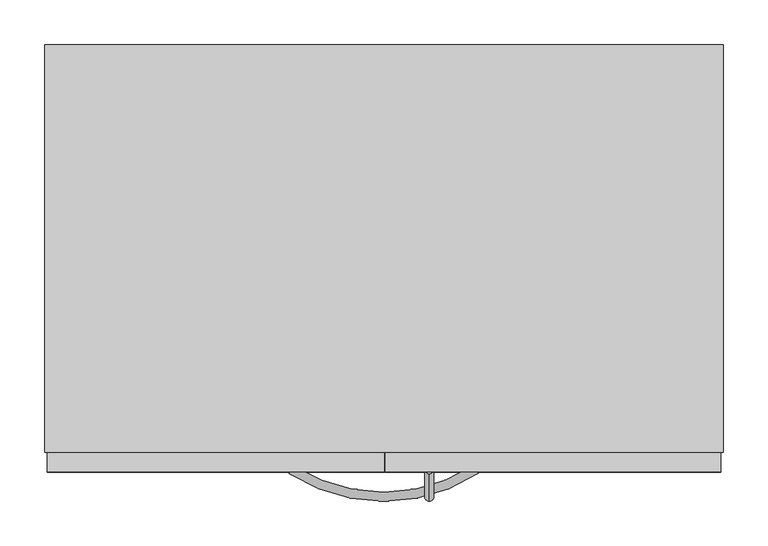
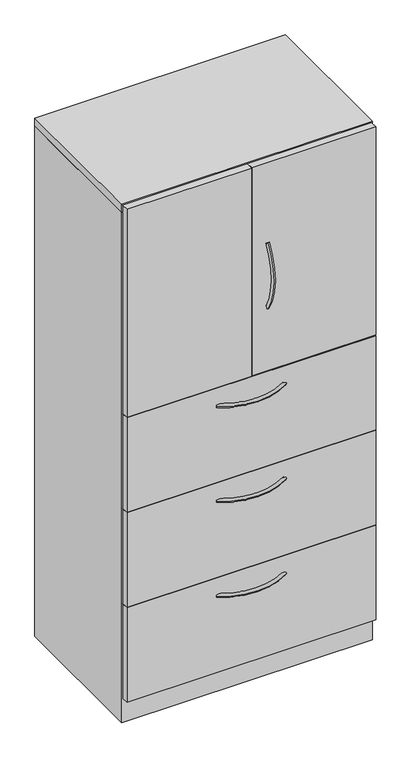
"""IFC4 building model written with IfcOpenShell, lengths in millimetres: furniture geometry, Steelcase - Universal Storage - Cabinet - Combination - Proud Steel : 65 1/2H - Hinged Doors/3 Drawers - 18 7/8D x 30W."""

from ifc_helpers import new_model, si_unit, point, frame, origin, place, context, project, spatial, polyline, circle_curve, ellipse_curve, trimmed, outline, extrude, faceted_brep, source, transform, mapped, element, save
from ifc_brep_helpers import plane_surface, revolved_surface, advanced_brep


def furniture_ed69521b(model_context):
    return source(origin(), model_context, "Body", "SolidModel", [
        extrude(outline(polyline([(758.8225413, -479.552), (3.1725353, -479.552), (3.1725353, -457.3261219), (758.8225413, -457.3261219), (758.8225413, -479.552)])), frame((0.0, 0.0, 77.724), z_axis=(0.0, 0.0, 1.0), x_axis=(1.0, 0.0, 0.0)), (0.0, 0.0, 1.0), 303.276),
        extrude(outline(polyline([(758.8225413, -479.552), (3.1725353, -479.552), (3.1725353, -457.3261219), (758.8225413, -457.3261219), (758.8225413, -479.552)])), frame((0.0, 0.0, 382.524), z_axis=(0.0, 0.0, 1.0), x_axis=(1.0, 0.0, 0.0)), (0.0, 0.0, 1.0), 303.276),
        extrude(outline(polyline([(758.8225413, -479.552), (3.1725353, -479.552), (3.1725353, -457.3261219), (758.8225413, -457.3261219), (758.8225413, -479.552)])), frame((0.0, 0.0, 687.3240349), z_axis=(0.0, 0.0, 1.0), x_axis=(1.0, 0.0, 0.0)), (0.0, 0.0, 1.0), 303.2759651),
        extrude(outline(polyline([(381.0, -479.552), (3.1725353, -479.552), (3.1725353, -457.3261219), (381.0, -457.3261219), (381.0, -479.552)])), frame((0.0, 0.0, 992.5062596), z_axis=(0.0, 0.0, 1.0), x_axis=(1.0, 0.0, 0.0)), (0.0, 0.0, 1.0), 668.02),
        extrude(outline(polyline([(758.8225413, -479.552), (382.5239992, -479.552), (382.5239992, -457.3261219), (758.8225413, -457.3261219), (758.8225413, -479.552)])), frame((0.0, 0.0, 992.5062596), z_axis=(0.0, 0.0, 1.0), x_axis=(1.0, 0.0, 0.0)), (0.0, 0.0, 1.0), 668.02),
        advanced_brep(
        [(431.7682496, -481.5705994, 1404.643666), (431.7682496, -473.0108019, 1399.1705073), (431.7682496, -481.1337636, 1192.3367456), (431.7682496, -472.5965612, 1197.8450825)],
        [
            (0, 1, circle_curve(frame((431.7682496, -477.2907007, 1401.9070866), z_axis=(0.0, 0.5386967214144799, 0.842499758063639), x_axis=(0.0, 0.842499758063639, -0.5386967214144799)), 5.08)),
            (1, 0, circle_curve(frame((431.7682496, -477.2907007, 1401.9070866), z_axis=(0.0, 0.5386967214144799, 0.842499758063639), x_axis=(0.0, 0.842499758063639, -0.5386967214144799)), 5.08)),
            (2, 3, circle_curve(frame((431.7682496, -476.8651624, 1195.0909141), z_axis=(0.0, 0.5421591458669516, -0.8402758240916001), x_axis=(0.0, 0.8402758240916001, 0.5421591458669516)), 5.08)),
            (3, 2, circle_curve(frame((431.7682496, -476.8651624, 1195.0909141), z_axis=(0.0, 0.5421591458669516, -0.8402758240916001), x_axis=(0.0, 0.8402758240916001, 0.5421591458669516)), 5.08)),
            (3, 1, circle_curve(frame((431.7682496, -316.0827352, 1298.8302589), z_axis=(-1.0, 0.0, 0.0), x_axis=(0.0, -0.8424997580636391, 0.5386967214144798)), 186.2648211)),
            (0, 2, circle_curve(frame((431.7682496, -316.0827352, 1298.8302589), z_axis=(1.0, 0.0, 0.0), x_axis=(0.0, -0.8424997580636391, 0.5386967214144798)), 196.4248211)),
        ],
        [
            plane_surface(frame((432.5619996, -476.6365286, 1401.4888072), z_axis=(0.0, 0.5386967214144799, 0.8424997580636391), x_axis=(1.0, 0.0, 0.0))),
            plane_surface(frame((432.5619996, -476.2127171, 1195.511882), z_axis=(0.0, 0.5421591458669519, -0.8402758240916), x_axis=(1.0, 0.0, 0.0))),
            revolved_surface(trimmed(ellipse_curve(frame((431.7682496, -477.2907007, 1401.9070866), z_axis=(0.0, 0.5386967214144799, 0.842499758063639), x_axis=(0.0, 0.842499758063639, -0.5386967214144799)), 5.08, 5.08), [point((431.7682496, -481.5705994, 1404.643666))], [point((431.7682496, -473.0108019, 1399.1705073))], True, "CARTESIAN"), (432.5619996, -316.0827352, 1298.8302589), (1.0, 0.0, 0.0)),
            revolved_surface(trimmed(ellipse_curve(frame((431.7682496, -477.2907007, 1401.9070866), z_axis=(0.0, 0.5386967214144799, 0.842499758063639), x_axis=(0.0, 0.842499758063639, -0.5386967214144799)), 5.08, 5.08), [point((431.7682496, -473.0108019, 1399.1705073))], [point((431.7682496, -481.5705994, 1404.643666))], True, "CARTESIAN"), (432.5619996, -316.0827352, 1298.8302589), (1.0, 0.0, 0.0)),
        ],
        [
            (0, [[1, 2]]),
            (1, [[3, 4]]),
            (2, [[5, -1, 6, -4]]),
            (3, [[-6, -2, -5, -3]]),
        ],
    ),
        advanced_brep(
        [(274.4245932, -481.5705994, 323.56425), (279.8977519, -473.0108019, 323.56425), (486.7315136, -481.1337636, 323.56425), (481.2231767, -472.5965612, 323.56425)],
        [
            (0, 1, circle_curve(frame((277.1611726, -477.2907007, 323.56425), z_axis=(-0.8424997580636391, 0.5386967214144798, 0.0), x_axis=(0.5386967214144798, 0.8424997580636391, 0.0)), 5.08)),
            (1, 0, circle_curve(frame((277.1611726, -477.2907007, 323.56425), z_axis=(-0.8424997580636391, 0.5386967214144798, 0.0), x_axis=(0.5386967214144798, 0.8424997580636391, 0.0)), 5.08)),
            (2, 3, circle_curve(frame((483.9773452, -476.8651624, 323.56425), z_axis=(0.8402758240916, 0.5421591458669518, 0.0), x_axis=(-0.5421591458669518, 0.8402758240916, 0.0)), 5.08)),
            (3, 2, circle_curve(frame((483.9773452, -476.8651624, 323.56425), z_axis=(0.8402758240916, 0.5421591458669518, 0.0), x_axis=(-0.5421591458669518, 0.8402758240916, 0.0)), 5.08)),
            (3, 1, circle_curve(frame((380.2380004, -316.0827352, 323.56425), z_axis=(0.0, 0.0, -1.0), x_axis=(-0.5386967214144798, -0.8424997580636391, 0.0)), 186.2648211)),
            (0, 2, circle_curve(frame((380.2380004, -316.0827352, 323.56425), z_axis=(0.0, 0.0, 1.0), x_axis=(-0.5386967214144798, -0.8424997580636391, 0.0)), 196.4248211)),
        ],
        [
            plane_surface(frame((277.5794521, -476.6365286, 324.358), z_axis=(-0.8424997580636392, 0.5386967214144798, 0.0), x_axis=(0.0, 0.0, 1.0))),
            plane_surface(frame((483.5563772, -476.2127171, 324.358), z_axis=(0.8402758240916, 0.5421591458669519, 0.0), x_axis=(0.0, 0.0, 1.0))),
            revolved_surface(trimmed(ellipse_curve(frame((277.1611726, -477.2907007, 323.56425), z_axis=(-0.8424997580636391, 0.5386967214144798, 0.0), x_axis=(0.5386967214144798, 0.8424997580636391, 0.0)), 5.08, 5.08), [point((274.4245932, -481.5705994, 323.56425))], [point((279.8977519, -473.0108019, 323.56425))], True, "CARTESIAN"), (380.2380004, -316.0827352, 324.358), (0.0, 0.0, 1.0)),
            revolved_surface(trimmed(ellipse_curve(frame((277.1611726, -477.2907007, 323.56425), z_axis=(-0.8424997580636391, 0.5386967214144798, 0.0), x_axis=(0.5386967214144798, 0.8424997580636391, 0.0)), 5.08, 5.08), [point((279.8977519, -473.0108019, 323.56425))], [point((274.4245932, -481.5705994, 323.56425))], True, "CARTESIAN"), (380.2380004, -316.0827352, 324.358), (0.0, 0.0, 1.0)),
        ],
        [
            (0, [[1, 2]]),
            (1, [[3, 4]]),
            (2, [[5, -1, 6, -4]]),
            (3, [[-6, -2, -5, -3]]),
        ],
    ),
        advanced_brep(
        [(274.4245932, -481.5705994, 627.85625), (279.8977519, -473.0108019, 627.85625), (486.7315136, -481.1337636, 627.85625), (481.2231767, -472.5965612, 627.85625)],
        [
            (0, 1, circle_curve(frame((277.1611726, -477.2907007, 627.85625), z_axis=(-0.8424997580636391, 0.5386967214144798, 0.0), x_axis=(0.5386967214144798, 0.8424997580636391, 0.0)), 5.08)),
            (1, 0, circle_curve(frame((277.1611726, -477.2907007, 627.85625), z_axis=(-0.8424997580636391, 0.5386967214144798, 0.0), x_axis=(0.5386967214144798, 0.8424997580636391, 0.0)), 5.08)),
            (2, 3, circle_curve(frame((483.9773452, -476.8651624, 627.85625), z_axis=(0.8402758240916, 0.5421591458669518, 0.0), x_axis=(-0.5421591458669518, 0.8402758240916, 0.0)), 5.08)),
            (3, 2, circle_curve(frame((483.9773452, -476.8651624, 627.85625), z_axis=(0.8402758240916, 0.5421591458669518, 0.0), x_axis=(-0.5421591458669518, 0.8402758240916, 0.0)), 5.08)),
            (3, 1, circle_curve(frame((380.2380004, -316.0827352, 627.85625), z_axis=(0.0, 0.0, -1.0), x_axis=(-0.5386967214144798, -0.8424997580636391, 0.0)), 186.2648211)),
            (0, 2, circle_curve(frame((380.2380004, -316.0827352, 627.85625), z_axis=(0.0, 0.0, 1.0), x_axis=(-0.5386967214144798, -0.8424997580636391, 0.0)), 196.4248211)),
        ],
        [
            plane_surface(frame((277.5794521, -476.6365286, 628.65), z_axis=(-0.8424997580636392, 0.5386967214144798, 0.0), x_axis=(0.0, 0.0, 1.0))),
            plane_surface(frame((483.5563772, -476.2127171, 628.65), z_axis=(0.8402758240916, 0.5421591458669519, 0.0), x_axis=(0.0, 0.0, 1.0))),
            revolved_surface(trimmed(ellipse_curve(frame((277.1611726, -477.2907007, 627.85625), z_axis=(-0.8424997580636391, 0.5386967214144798, 0.0), x_axis=(0.5386967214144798, 0.8424997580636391, 0.0)), 5.08, 5.08), [point((274.4245932, -481.5705994, 627.85625))], [point((279.8977519, -473.0108019, 627.85625))], True, "CARTESIAN"), (380.2380004, -316.0827352, 628.65), (0.0, 0.0, 1.0)),
            revolved_surface(trimmed(ellipse_curve(frame((277.1611726, -477.2907007, 627.85625), z_axis=(-0.8424997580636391, 0.5386967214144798, 0.0), x_axis=(0.5386967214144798, 0.8424997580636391, 0.0)), 5.08, 5.08), [point((279.8977519, -473.0108019, 627.85625))], [point((274.4245932, -481.5705994, 627.85625))], True, "CARTESIAN"), (380.2380004, -316.0827352, 628.65), (0.0, 0.0, 1.0)),
        ],
        [
            (0, [[1, 2]]),
            (1, [[3, 4]]),
            (2, [[5, -1, 6, -4]]),
            (3, [[-6, -2, -5, -3]]),
        ],
    ),
        advanced_brep(
        [(274.4245932, -481.5705994, 932.65625), (279.8977519, -473.0108019, 932.65625), (486.7315136, -481.1337636, 932.65625), (481.2231767, -472.5965612, 932.65625)],
        [
            (0, 1, circle_curve(frame((277.1611726, -477.2907007, 932.65625), z_axis=(-0.8424997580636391, 0.5386967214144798, 0.0), x_axis=(0.5386967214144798, 0.8424997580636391, 0.0)), 5.08)),
            (1, 0, circle_curve(frame((277.1611726, -477.2907007, 932.65625), z_axis=(-0.8424997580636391, 0.5386967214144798, 0.0), x_axis=(0.5386967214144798, 0.8424997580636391, 0.0)), 5.08)),
            (2, 3, circle_curve(frame((483.9773452, -476.8651624, 932.65625), z_axis=(0.8402758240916, 0.5421591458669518, 0.0), x_axis=(-0.5421591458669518, 0.8402758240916, 0.0)), 5.08)),
            (3, 2, circle_curve(frame((483.9773452, -476.8651624, 932.65625), z_axis=(0.8402758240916, 0.5421591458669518, 0.0), x_axis=(-0.5421591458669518, 0.8402758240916, 0.0)), 5.08)),
            (3, 1, circle_curve(frame((380.2380004, -316.0827352, 932.65625), z_axis=(0.0, 0.0, -1.0), x_axis=(-0.5386967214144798, -0.8424997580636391, 0.0)), 186.2648211)),
            (0, 2, circle_curve(frame((380.2380004, -316.0827352, 932.65625), z_axis=(0.0, 0.0, 1.0), x_axis=(-0.5386967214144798, -0.8424997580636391, 0.0)), 196.4248211)),
        ],
        [
            plane_surface(frame((277.5794521, -476.6365286, 933.45), z_axis=(-0.8424997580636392, 0.5386967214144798, 0.0), x_axis=(0.0, 0.0, 1.0))),
            plane_surface(frame((483.5563772, -476.2127171, 933.45), z_axis=(0.8402758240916, 0.5421591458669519, 0.0), x_axis=(0.0, 0.0, 1.0))),
            revolved_surface(trimmed(ellipse_curve(frame((277.1611726, -477.2907007, 932.65625), z_axis=(-0.8424997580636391, 0.5386967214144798, 0.0), x_axis=(0.5386967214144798, 0.8424997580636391, 0.0)), 5.08, 5.08), [point((274.4245932, -481.5705994, 932.65625))], [point((279.8977519, -473.0108019, 932.65625))], True, "CARTESIAN"), (380.2380004, -316.0827352, 933.45), (0.0, 0.0, 1.0)),
            revolved_surface(trimmed(ellipse_curve(frame((277.1611726, -477.2907007, 932.65625), z_axis=(-0.8424997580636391, 0.5386967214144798, 0.0), x_axis=(0.5386967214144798, 0.8424997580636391, 0.0)), 5.08, 5.08), [point((279.8977519, -473.0108019, 932.65625))], [point((274.4245932, -481.5705994, 932.65625))], True, "CARTESIAN"), (380.2380004, -316.0827352, 933.45), (0.0, 0.0, 1.0)),
        ],
        [
            (0, [[1, 2]]),
            (1, [[3, 4]]),
            (2, [[5, -1, 6, -4]]),
            (3, [[-6, -2, -5, -3]]),
        ],
    ),
        faceted_brep([(25.4000008, -457.3261219, 76.2), (736.6000242, -457.3261219, 76.2), (736.6000242, -25.4000008, 76.2), (25.4000008, -25.4000008, 76.2), (762.0, 0.0, 0.0), (762.0, -457.3261219, 0.0), (0.0, -457.3261219, 0.0), (0.0, 0.0, 0.0), (0.0, 0.0, 1636.776), (762.0, 0.0, 1636.776), (0.0, -457.3261219, 1636.776), (762.0, -457.3261219, 1636.776), (736.6000242, -457.3261219, 1636.776), (25.4000008, -457.3261219, 1636.776), (736.6000242, -25.4000008, 1636.776), (25.4000008, -25.4000008, 1636.776)], [[[0, 1, 2, 3]], [[4, 5, 6, 7]], [[4, 7, 8, 9]], [[8, 7, 6, 10]], [[10, 6, 5, 11, 12, 1, 0, 13]], [[11, 5, 4, 9]], [[14, 12, 11, 9, 8, 10, 13, 15]], [[12, 14, 2, 1]], [[15, 13, 0, 3]], [[14, 15, 3, 2]]]),
        extrude(outline(polyline([(762.0, 0.0), (762.0, -457.3261219), (0.0, -457.3261219), (0.0, 0.0), (762.0, 0.0)])), frame((0.0, 0.0, 1638.2999516), z_axis=(0.0, 0.0, 1.0), x_axis=(1.0, 0.0, 0.0)), (0.0, 0.0, 1.0), 25.4000484),
    ])


if __name__ == "__main__":
    model = new_model("IFC4")
    model_context = context("Model", 3, world=origin())
    ifc_project = project(units=[si_unit("LENGTHUNIT", "METRE", prefix="MILLI")], contexts=[model_context])
    site = spatial("IfcSite", under=ifc_project)
    building = spatial("IfcBuilding", under=site)
    placement = place(None, origin())
    furniture_shape = furniture_ed69521b(model_context)
    element("IfcFurniture", 1, ObjectType="Steelcase - Universal Storage - Cabinet - Combination - Proud Steel : 65 1/2H - Hinged Doors/3 Drawers - 18 7/8D x 30W", at=placement, inside=building, context=model_context, shape_type="MappedRepresentation", body=[
        mapped(furniture_shape, transform((0.0, 0.0, 0.0), x_axis=(1.0, 0.0, 0.0), y_axis=(0.0, 1.0, 0.0), z_axis=(0.0, 0.0, 1.0))),
    ])
    save(model, "model.ifc")
